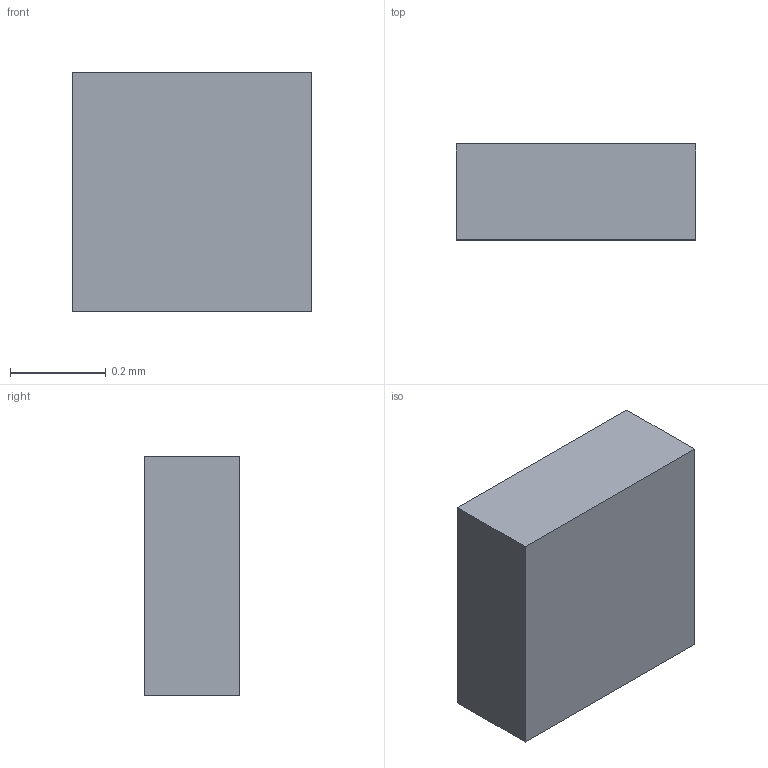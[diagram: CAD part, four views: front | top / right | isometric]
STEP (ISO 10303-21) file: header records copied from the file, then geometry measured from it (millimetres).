
FILE_DESCRIPTION(/* description */ ('STEP AP242 Edition 2','CAx-IF Rec.Pracs.---Representation and Presentation of Product Manufacturing Information (PMI)---4.0---2014-10-13','CAx-IF Rec.Pracs.---3D Tessellated Geometry---0.4---2014-09-14','2;1','CAx-IF Rec.Pracs.---User Defined Attributes---1.5---2016-08-15'),/* implementation_level */ '2;1');
FILE_NAME(/* name */ 'HIRO_Assembly - SMD Capacitor, Configurable, Raspberry Pi Pico-R3_C13 (1)',/* time_stamp */ '2026-11-04T05:23:28Z',/* author */ (''),/* organization */ (''),/* preprocessor_version */ 'ST-DEVELOPER v20',/* originating_system */ 'ONSHAPE BY PTC INC, 1.223',/* authorisation */ ' ');
FILE_SCHEMA (('AP242_MANAGED_MODEL_BASED_3D_ENGINEERING_MIM_LF { 1 0 10303 442 3 1 4 }'));
Length unit declared in the file: metre
Products named in the file (1): SMD Capacitor, Configurable, Raspberry Pi Pico-R3_C13
Bounding box: 0.5 x 0.2 x 0.5 mm (x, y, z)
Volume: 0.1 mm3; surface area: 0.9 mm2
Topology: 1 solids, 1 shells, 6 faces, 12 edges, 8 vertices
Faces by surface type: plane 6
Entity records: 178 total; most frequent: CARTESIAN_POINT 27, DIRECTION 26, ORIENTED_EDGE 24, EDGE_CURVE 12, LINE 12, VECTOR 12, VERTEX_POINT 8, AXIS2_PLACEMENT_3D 7
